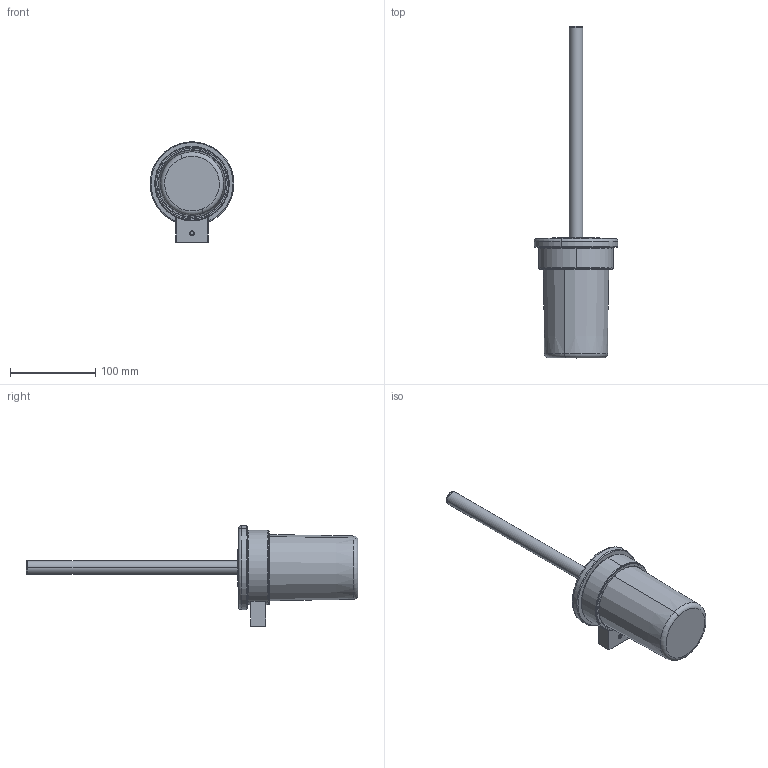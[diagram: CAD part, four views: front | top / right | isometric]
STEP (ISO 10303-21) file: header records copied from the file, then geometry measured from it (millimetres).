
FILE_DESCRIPTION (( 'STEP AP203' ), '1' );
FILE_NAME ('28025A-00-00.STEP', '2022-07-07T05:41:36', ( 'Windows User' ), ( 'P R C' ), 'SwSTEP 2.0', 'SolidWorks 2015', '' );
FILE_SCHEMA (( 'CONFIG_CONTROL_DESIGN' ));
Length unit declared in the file: millimetre
Products named in the file (1): 28025A-00-00
Bounding box: 98.29 x 389.21 x 117.89 mm (x, y, z)
Surface area: 83467.5 mm2 (no closed solid volume)
Topology: 0 solids, 11 shells, 117 faces, 395 edges, 285 vertices
Faces by surface type: cylinder 38, plane 35, torus 24, cone 8, bspline 8, sphere 4
Entity records: 4644 total; most frequent: CARTESIAN_POINT 1270, DIRECTION 733, ORIENTED_EDGE 592, EDGE_CURVE 395, AXIS2_PLACEMENT_3D 294, VERTEX_POINT 285, CIRCLE 184, LINE 145
